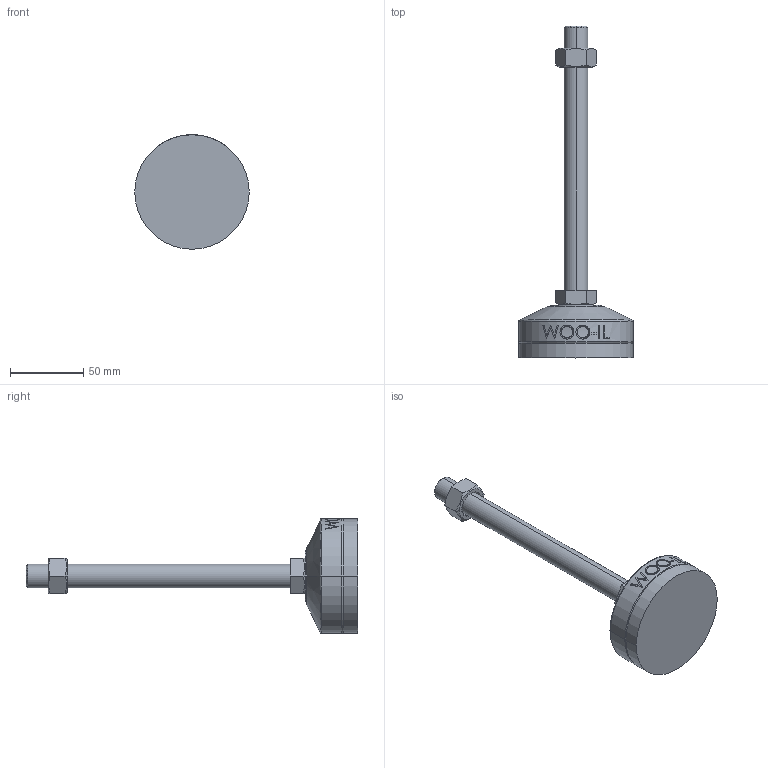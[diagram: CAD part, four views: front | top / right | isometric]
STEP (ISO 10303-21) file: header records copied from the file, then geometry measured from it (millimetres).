
FILE_DESCRIPTION (( 'STEP AP214' ), '1' );
FILE_NAME ('MFZR78-M16-180.step', '2021-03-29T06:57:46', ( '' ), ( '' ), 'SwSTEP 2.0', 'SolidWorks 2019', '' );
FILE_SCHEMA (( 'AUTOMOTIVE_DESIGN' ));
Length unit declared in the file: millimetre
Products named in the file (2): MFZR78-M16-180
Bounding box: 78 x 226 x 78 mm (x, y, z)
Volume: 194053.4 mm3; surface area: 38759.3 mm2
Topology: 4 solids, 4 shells, 103 faces, 235 edges, 150 vertices
Faces by surface type: plane 49, cylinder 18, bspline 16, cone 14, torus 6
Entity records: 4499 total; most frequent: CARTESIAN_POINT 2226, ORIENTED_EDGE 470, DIRECTION 417, EDGE_CURVE 235, AXIS2_PLACEMENT_3D 159, VERTEX_POINT 150, EDGE_LOOP 115, ADVANCED_FACE 103
